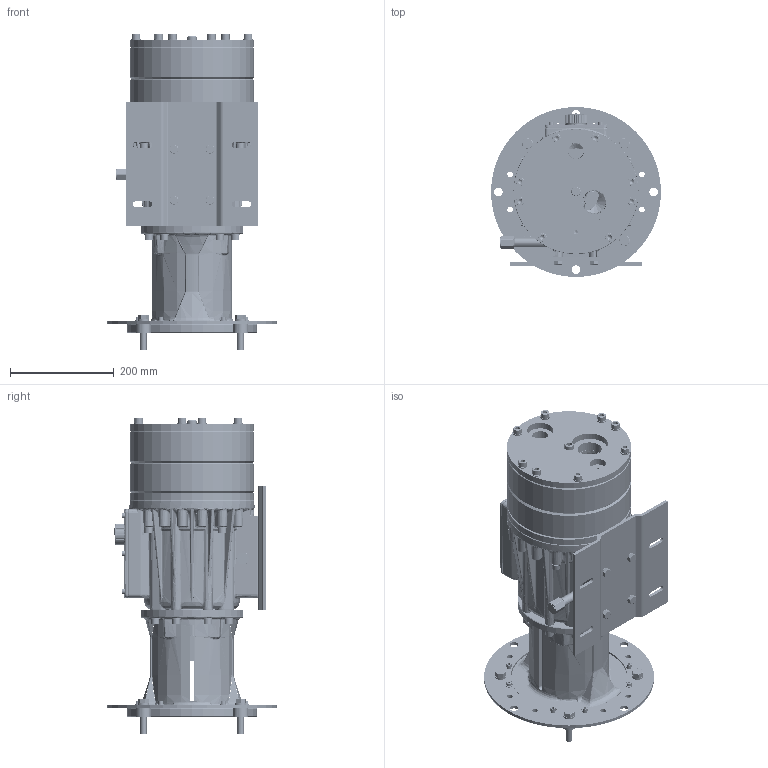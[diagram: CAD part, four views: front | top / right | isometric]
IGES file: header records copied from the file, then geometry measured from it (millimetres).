
Start section: SolidWorks IGES file using analytic representation for surfaces
Global section: file name: Q:\ENG\!!Gary\Outline-Dwgs\Latest-Pump-etc-OD\G25-P-1201-OD.IGS; native system: SolidWorks 2007; preprocessor: SolidWorks 2007; author: garyi; date: 081105.090234; units: inch
Bounding box: 327.66 x 327.66 x 610.88 mm (x, y, z)
Surface area: 2043515.3 mm2 (no closed solid volume)
Topology: 0 solids, 0 shells, 10671 faces, 124192 edges, 124125 vertices
Faces by surface type: revolution 6229, bspline 4442
